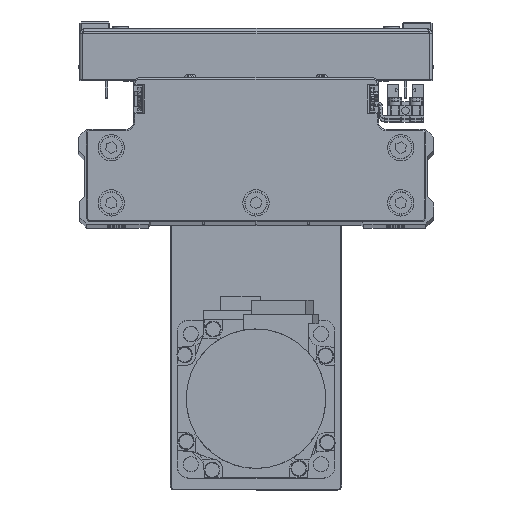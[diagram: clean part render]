
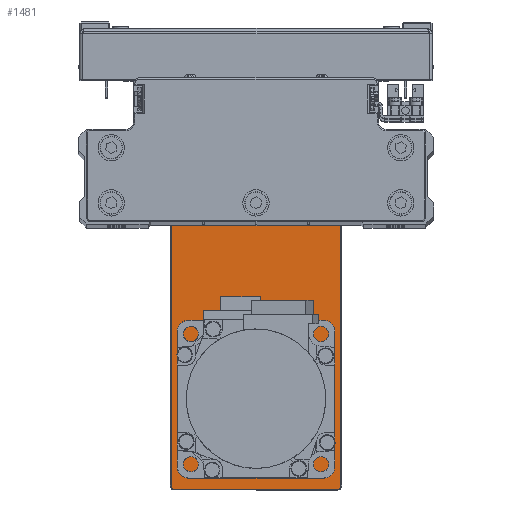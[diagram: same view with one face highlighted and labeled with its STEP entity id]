
A CAD part, top view. The second image highlights one B-rep face of the part: STEP entity #1481.
In plain terms, the highlighted planar face has unit normal (0, 0, 1) as drawn and (0, 1, 0) by its records, which use the part's own axes.
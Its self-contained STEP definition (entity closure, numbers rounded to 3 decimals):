
#974 = DIRECTION ( 'NONE',  ( 0., 0., -1. ) ) ;
#984 = CARTESIAN_POINT ( 'NONE',  ( -83.5, 6., -32.2 ) ) ;
#1344 = VERTEX_POINT ( 'NONE', #32694 ) ;
#1481 = ADVANCED_FACE ( 'NONE', ( #10089, #23732, #37387, #6754, #20360 ), #34017, .F. ) ;
#1922 = VERTEX_POINT ( 'NONE', #8182 ) ;
#1937 = CIRCLE ( 'NONE', #26920, 1.2 ) ;
#1987 = DIRECTION ( 'NONE',  ( 0., 0., 1. ) ) ;
#2081 = CIRCLE ( 'NONE', #27065, 1.525 ) ;
#2249 = CARTESIAN_POINT ( 'NONE',  ( 83.5, 6., -32.2 ) ) ;
#2283 = ORIENTED_EDGE ( 'NONE', *, *, #10011, .T. ) ;
#2648 = EDGE_LOOP ( 'NONE', ( #5916, #2283, #17917, #6527, #10645, #9913, #40562, #28502 ) ) ;
#2871 = EDGE_LOOP ( 'NONE', ( #39410, #17648 ) ) ;
#3181 = CARTESIAN_POINT ( 'NONE',  ( 61.051, 6., 25.017 ) ) ;
#3393 = CARTESIAN_POINT ( 'NONE',  ( 0., 6., 0. ) ) ;
#3610 = CIRCLE ( 'NONE', #9308, 1.525 ) ;
#3611 = DIRECTION ( 'NONE',  ( 0., 0., -1. ) ) ;
#3681 = ORIENTED_EDGE ( 'NONE', *, *, #39804, .F. ) ;
#3693 = CARTESIAN_POINT ( 'NONE',  ( -50.5, 6., -15. ) ) ;
#3956 = EDGE_CURVE ( 'NONE', #15145, #37529, #11999, .T. ) ;
#3965 = AXIS2_PLACEMENT_3D ( 'NONE', #20578, #34235, #3611 ) ;
#5916 = ORIENTED_EDGE ( 'NONE', *, *, #12733, .T. ) ;
#6254 = EDGE_CURVE ( 'NONE', #10892, #19279, #2081, .T. ) ;
#6527 = ORIENTED_EDGE ( 'NONE', *, *, #19328, .T. ) ;
#6754 = FACE_OUTER_BOUND ( 'NONE', #2648, .T. ) ;
#7186 = CIRCLE ( 'NONE', #32154, 1.525 ) ;
#7441 = CARTESIAN_POINT ( 'NONE',  ( -83.5, 6., 31. ) ) ;
#7488 = CARTESIAN_POINT ( 'NONE',  ( -50.5, 6., 15. ) ) ;
#7750 = CARTESIAN_POINT ( 'NONE',  ( 61.051, 6., 23.492 ) ) ;
#7892 = CARTESIAN_POINT ( 'NONE',  ( 84.7, 6., -31. ) ) ;
#8182 = CARTESIAN_POINT ( 'NONE',  ( 83.5, 6., 32.2 ) ) ;
#8430 = EDGE_CURVE ( 'NONE', #16064, #30657, #40415, .T. ) ;
#8499 = CARTESIAN_POINT ( 'NONE',  ( 61.051, 6., 23.492 ) ) ;
#8653 = CIRCLE ( 'NONE', #33645, 10.3 ) ;
#8832 = LINE ( 'NONE', #22449, #10376 ) ;
#8844 = CARTESIAN_POINT ( 'NONE',  ( 0., 6., -32.2 ) ) ;
#8859 = DIRECTION ( 'NONE',  ( 0., 1., 0. ) ) ;
#8992 = EDGE_CURVE ( 'NONE', #1922, #16064, #1937, .T. ) ;
#9163 = CARTESIAN_POINT ( 'NONE',  ( 52.5, 6., 10.3 ) ) ;
#9308 = AXIS2_PLACEMENT_3D ( 'NONE', #8499, #22119, #35777 ) ;
#9364 = DIRECTION ( 'NONE',  ( 0., 0., -1. ) ) ;
#9614 = LINE ( 'NONE', #23249, #19857 ) ;
#9696 = DIRECTION ( 'NONE',  ( 0., -1., 0. ) ) ;
#9762 = CARTESIAN_POINT ( 'NONE',  ( 84.7, 6., 0. ) ) ;
#9795 = CIRCLE ( 'NONE', #15525, 10.3 ) ;
#9913 = ORIENTED_EDGE ( 'NONE', *, *, #37219, .T. ) ;
#10011 = EDGE_CURVE ( 'NONE', #23527, #22100, #39487, .T. ) ;
#10089 = FACE_BOUND ( 'NONE', #36398, .T. ) ;
#10188 = ORIENTED_EDGE ( 'NONE', *, *, #28680, .F. ) ;
#10376 = VECTOR ( 'NONE', #36108, 1000. ) ;
#10645 = ORIENTED_EDGE ( 'NONE', *, *, #3956, .T. ) ;
#10892 = VERTEX_POINT ( 'NONE', #28644 ) ;
#10996 = DIRECTION ( 'NONE',  ( 0., -1., 0. ) ) ;
#11999 = CIRCLE ( 'NONE', #37001, 1.2 ) ;
#12510 = CARTESIAN_POINT ( 'NONE',  ( 75.992, 6., -8.551 ) ) ;
#12712 = CIRCLE ( 'NONE', #37728, 15. ) ;
#12733 = EDGE_CURVE ( 'NONE', #30657, #23527, #36896, .T. ) ;
#13983 = CIRCLE ( 'NONE', #38979, 15. ) ;
#15108 = CARTESIAN_POINT ( 'NONE',  ( 75.992, 6., -10.076 ) ) ;
#15145 = VERTEX_POINT ( 'NONE', #31177 ) ;
#15525 = AXIS2_PLACEMENT_3D ( 'NONE', #41647, #10996, #24622 ) ;
#15909 = CARTESIAN_POINT ( 'NONE',  ( -50.5, 6., 0. ) ) ;
#16064 = VERTEX_POINT ( 'NONE', #34473 ) ;
#16231 = ORIENTED_EDGE ( 'NONE', *, *, #40927, .F. ) ;
#16336 = VERTEX_POINT ( 'NONE', #9163 ) ;
#17022 = DIRECTION ( 'NONE',  ( 0., -1., 0. ) ) ;
#17051 = EDGE_LOOP ( 'NONE', ( #10188, #38414 ) ) ;
#17603 = AXIS2_PLACEMENT_3D ( 'NONE', #26345, #40004, #9364 ) ;
#17648 = ORIENTED_EDGE ( 'NONE', *, *, #35815, .T. ) ;
#17917 = ORIENTED_EDGE ( 'NONE', *, *, #19495, .T. ) ;
#17959 = CARTESIAN_POINT ( 'NONE',  ( 83.5, 6., 31. ) ) ;
#18625 = VERTEX_POINT ( 'NONE', #3693 ) ;
#18955 = CARTESIAN_POINT ( 'NONE',  ( -50.5, 6., 0. ) ) ;
#19279 = VERTEX_POINT ( 'NONE', #15108 ) ;
#19328 = EDGE_CURVE ( 'NONE', #41124, #15145, #8832, .T. ) ;
#19495 = EDGE_CURVE ( 'NONE', #22100, #41124, #23224, .T. ) ;
#19857 = VECTOR ( 'NONE', #36906, 1000. ) ;
#20258 = CARTESIAN_POINT ( 'NONE',  ( 61.051, 6., 21.967 ) ) ;
#20360 = FACE_BOUND ( 'NONE', #17051, .T. ) ;
#20578 = CARTESIAN_POINT ( 'NONE',  ( -83.5, 6., -31. ) ) ;
#21044 = DIRECTION ( 'NONE',  ( 0., 1., 0. ) ) ;
#21358 = DIRECTION ( 'NONE',  ( 0., 1., 0. ) ) ;
#21503 = VERTEX_POINT ( 'NONE', #20258 ) ;
#22100 = VERTEX_POINT ( 'NONE', #984 ) ;
#22119 = DIRECTION ( 'NONE',  ( 0., 1., 0. ) ) ;
#22449 = CARTESIAN_POINT ( 'NONE',  ( -84.7, 6., 0. ) ) ;
#22467 = DIRECTION ( 'NONE',  ( -1., 0., 0. ) ) ;
#22483 = DIRECTION ( 'NONE',  ( 0., 0., 1. ) ) ;
#22706 = VECTOR ( 'NONE', #22467, 1000. ) ;
#22887 = AXIS2_PLACEMENT_3D ( 'NONE', #3393, #17022, #30658 ) ;
#23224 = CIRCLE ( 'NONE', #3965, 1.2 ) ;
#23249 = CARTESIAN_POINT ( 'NONE',  ( 0., 6., 32.2 ) ) ;
#23329 = DIRECTION ( 'NONE',  ( 0., 0., -1. ) ) ;
#23394 = DIRECTION ( 'NONE',  ( 0., 0., -1. ) ) ;
#23527 = VERTEX_POINT ( 'NONE', #2249 ) ;
#23732 = FACE_BOUND ( 'NONE', #30120, .T. ) ;
#23870 = ORIENTED_EDGE ( 'NONE', *, *, #6254, .F. ) ;
#24622 = DIRECTION ( 'NONE',  ( 0., 0., -1. ) ) ;
#26029 = EDGE_CURVE ( 'NONE', #18625, #44065, #13983, .T. ) ;
#26131 = DIRECTION ( 'NONE',  ( 0., 1., 0. ) ) ;
#26345 = CARTESIAN_POINT ( 'NONE',  ( 83.5, 6., -31. ) ) ;
#26920 = AXIS2_PLACEMENT_3D ( 'NONE', #17959, #31604, #974 ) ;
#27065 = AXIS2_PLACEMENT_3D ( 'NONE', #39503, #8859, #22483 ) ;
#28502 = ORIENTED_EDGE ( 'NONE', *, *, #8430, .T. ) ;
#28644 = CARTESIAN_POINT ( 'NONE',  ( 75.992, 6., -7.026 ) ) ;
#28680 = EDGE_CURVE ( 'NONE', #44065, #18625, #12712, .T. ) ;
#29251 = CARTESIAN_POINT ( 'NONE',  ( -83.5, 6., 32.2 ) ) ;
#29547 = DIRECTION ( 'NONE',  ( 0., 1., 0. ) ) ;
#29614 = EDGE_CURVE ( 'NONE', #16336, #1344, #8653, .T. ) ;
#30120 = EDGE_LOOP ( 'NONE', ( #23870, #3681 ) ) ;
#30657 = VERTEX_POINT ( 'NONE', #7892 ) ;
#30658 = DIRECTION ( 'NONE',  ( 0., 0., -1. ) ) ;
#31177 = CARTESIAN_POINT ( 'NONE',  ( -84.7, 6., 31. ) ) ;
#31604 = DIRECTION ( 'NONE',  ( 0., 1., 0. ) ) ;
#32154 = AXIS2_PLACEMENT_3D ( 'NONE', #7750, #21358, #35016 ) ;
#32621 = DIRECTION ( 'NONE',  ( 0., 1., 0. ) ) ;
#32694 = CARTESIAN_POINT ( 'NONE',  ( 52.5, 6., -10.3 ) ) ;
#33645 = AXIS2_PLACEMENT_3D ( 'NONE', #40342, #9696, #23329 ) ;
#33941 = ORIENTED_EDGE ( 'NONE', *, *, #41776, .F. ) ;
#33963 = CARTESIAN_POINT ( 'NONE',  ( -84.7, 6., -31. ) ) ;
#34017 = PLANE ( 'NONE',  #22887 ) ;
#34235 = DIRECTION ( 'NONE',  ( 0., 1., 0. ) ) ;
#34343 = CIRCLE ( 'NONE', #40060, 1.525 ) ;
#34473 = CARTESIAN_POINT ( 'NONE',  ( 84.7, 6., 31. ) ) ;
#34712 = DIRECTION ( 'NONE',  ( 0., 0., -1. ) ) ;
#35016 = DIRECTION ( 'NONE',  ( 0., 0., 1. ) ) ;
#35707 = VERTEX_POINT ( 'NONE', #3181 ) ;
#35777 = DIRECTION ( 'NONE',  ( 0., 0., 1. ) ) ;
#35815 = EDGE_CURVE ( 'NONE', #1344, #16336, #9795, .T. ) ;
#36108 = DIRECTION ( 'NONE',  ( 0., 0., 1. ) ) ;
#36398 = EDGE_LOOP ( 'NONE', ( #33941, #16231 ) ) ;
#36896 = CIRCLE ( 'NONE', #17603, 1.2 ) ;
#36906 = DIRECTION ( 'NONE',  ( 1., 0., 0. ) ) ;
#37001 = AXIS2_PLACEMENT_3D ( 'NONE', #7441, #21044, #34712 ) ;
#37219 = EDGE_CURVE ( 'NONE', #37529, #1922, #9614, .T. ) ;
#37387 = FACE_BOUND ( 'NONE', #2871, .T. ) ;
#37529 = VERTEX_POINT ( 'NONE', #29251 ) ;
#37728 = AXIS2_PLACEMENT_3D ( 'NONE', #15909, #29547, #43204 ) ;
#38414 = ORIENTED_EDGE ( 'NONE', *, *, #26029, .F. ) ;
#38979 = AXIS2_PLACEMENT_3D ( 'NONE', #18955, #32621, #1987 ) ;
#39410 = ORIENTED_EDGE ( 'NONE', *, *, #29614, .T. ) ;
#39487 = LINE ( 'NONE', #8844, #22706 ) ;
#39503 = CARTESIAN_POINT ( 'NONE',  ( 75.992, 6., -8.551 ) ) ;
#39791 = DIRECTION ( 'NONE',  ( 0., 0., 1. ) ) ;
#39804 = EDGE_CURVE ( 'NONE', #19279, #10892, #34343, .T. ) ;
#40004 = DIRECTION ( 'NONE',  ( 0., 1., 0. ) ) ;
#40060 = AXIS2_PLACEMENT_3D ( 'NONE', #12510, #26131, #39791 ) ;
#40342 = CARTESIAN_POINT ( 'NONE',  ( 52.5, 6., 0. ) ) ;
#40415 = LINE ( 'NONE', #9762, #42632 ) ;
#40562 = ORIENTED_EDGE ( 'NONE', *, *, #8992, .T. ) ;
#40927 = EDGE_CURVE ( 'NONE', #21503, #35707, #3610, .T. ) ;
#41124 = VERTEX_POINT ( 'NONE', #33963 ) ;
#41647 = CARTESIAN_POINT ( 'NONE',  ( 52.5, 6., 0. ) ) ;
#41776 = EDGE_CURVE ( 'NONE', #35707, #21503, #7186, .T. ) ;
#42632 = VECTOR ( 'NONE', #23394, 1000. ) ;
#43204 = DIRECTION ( 'NONE',  ( 0., 0., 1. ) ) ;
#44065 = VERTEX_POINT ( 'NONE', #7488 ) ;
